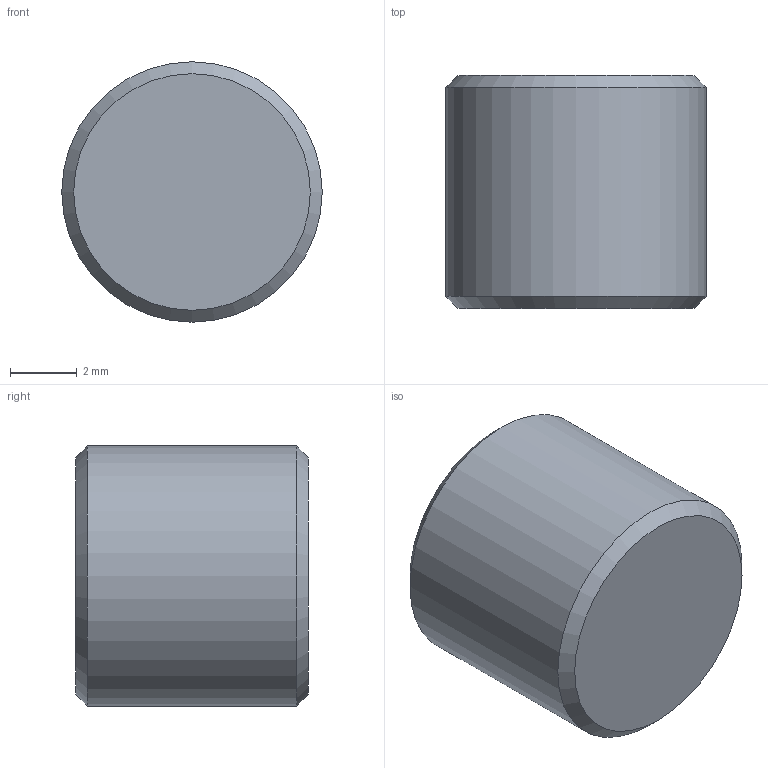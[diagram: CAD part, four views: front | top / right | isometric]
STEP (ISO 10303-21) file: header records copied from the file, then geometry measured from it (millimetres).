
FILE_DESCRIPTION(/* description */ (''),/* implementation_level */ '2;1');
FILE_NAME(/* name */ 'C:/Users/drich/Desktop/BF-BSPT-16 .step',/* time_stamp */ '2020-12-14T10:05:18-06:00',/* author */ (''),/* organization */ (''),/* preprocessor_version */ 'ST-DEVELOPER v18.1',/* originating_system */ 'Autodesk Translation Framework v9.7.1.1290',/* authorisation */ '');
FILE_SCHEMA (('AUTOMOTIVE_DESIGN { 1 0 10303 214 3 1 1 }'));
Length unit declared in the file: inch
Products named in the file (1): BF-BSPT-16
Bounding box: 7.83 x 7 x 7.83 mm (x, y, z)
Volume: 279.3 mm3; surface area: 309.8 mm2
Topology: 1 solids, 1 shells, 13 faces, 35 edges, 25 vertices
Faces by surface type: plane 9, cone 3, cylinder 1
Full cylindrical faces by diameter (mm): 7.828 x1
Entity records: 446 total; most frequent: CARTESIAN_POINT 98, ORIENTED_EDGE 70, DIRECTION 58, EDGE_CURVE 35, VERTEX_POINT 25, AXIS2_PLACEMENT_3D 21, LINE 16, VECTOR 16
